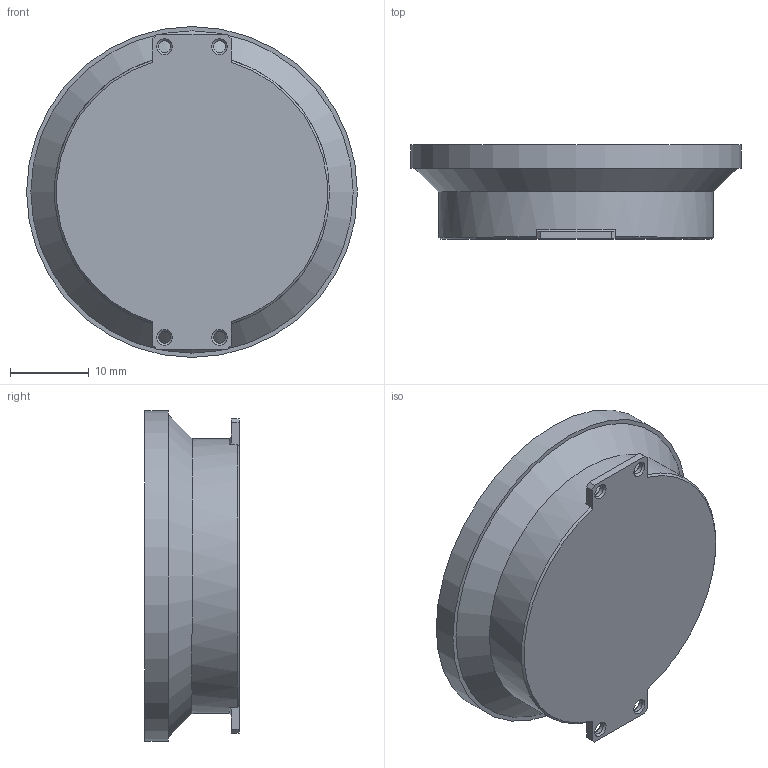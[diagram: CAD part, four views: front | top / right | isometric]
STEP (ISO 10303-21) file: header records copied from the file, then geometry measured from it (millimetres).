
FILE_DESCRIPTION(/* description */ (''),/* implementation_level */ '2;1');
FILE_NAME(/* name */ '/Users/jhkn/Google Drive/3D Printer/Media/YouMagine/MKII 5 Watt 3D printable Wind Turbine/Fusion 360 Custom Parts/Main Location Bearing Cover/Bearing Cover v2.step',/* time_stamp */ '2016-12-18T12:24:49+01:00',/* author */ (''),/* organization */ (''),/* preprocessor_version */ 'ST-DEVELOPER v16.5',/* originating_system */ 'Autodesk Translation Framework v5.2.0.2920',/* authorisation */ '');
FILE_SCHEMA (('AUTOMOTIVE_DESIGN { 1 0 10303 214 3 1 1 }'));
Length unit declared in the file: millimetre
Products named in the file (1): Bearing Cover v2
Bounding box: 42.1 x 12 x 42.1 mm (x, y, z)
Volume: 2752 mm3; surface area: 5235.1 mm2
Topology: 1 solids, 1 shells, 41 faces, 96 edges, 60 vertices
Faces by surface type: plane 17, cone 16, cylinder 8
Full cylindrical faces by diameter (mm): 1.5 x4, 33.9 x1, 35 x1, 40 x1, 42.1 x1
Entity records: 1090 total; most frequent: CARTESIAN_POINT 192, DIRECTION 186, ORIENTED_EDGE 150, AXIS2_PLACEMENT_3D 77, EDGE_CURVE 75, EDGE_LOOP 72, VERTEX_POINT 59, FACE_OUTER_BOUND 41
